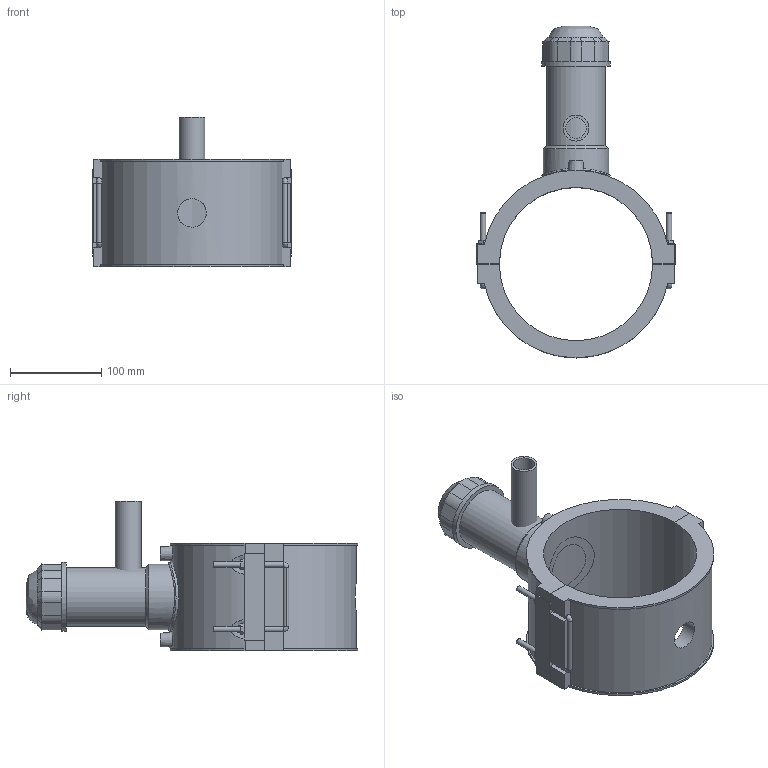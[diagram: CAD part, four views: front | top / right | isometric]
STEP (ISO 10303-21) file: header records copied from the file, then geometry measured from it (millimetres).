
FILE_DESCRIPTION(/* description */ ('PLASSON TAPPING SADDLE 6''''IPS x 1''''CTS'),/* implementation_level */ '2;1');
FILE_NAME(/* name */ 'C:\Dropbox\KIMPROJECTS-Inventor 2019\99-16-3568-Processing Inch\ASTM ElectroFusion 2021\5963BBP_5963BUP\5963BUP3060010.ipt.stp',/* time_stamp */ '2021-08-30T09:57:55+03:00',/* author */ ('KIM'),/* organization */ (''),/* preprocessor_version */ 'ST-DEVELOPER v17.2',/* originating_system */ 'Autodesk Inventor 2019',/* authorisation */ '');
FILE_SCHEMA (('AUTOMOTIVE_DESIGN { 1 0 10303 214 3 1 1 }'));
Length unit declared in the file: inch
Products named in the file (1): 5963BUP3060010
Bounding box: 217.9 x 363.85 x 163.96 mm (x, y, z)
Volume: 1613968.4 mm3; surface area: 274847.1 mm2
Topology: 3 solids, 3 shells, 187 faces, 489 edges, 313 vertices
Faces by surface type: plane 115, cylinder 47, cone 15, bspline 10
Full cylindrical faces by diameter (mm): 4 x2, 6 x8, 10 x2, 22.76 x1, 28.45 x1, 31.36 x1, 52.92 x1, 64.26 x1, 71.82 x1, 75.6 x2
Entity records: 6744 total; most frequent: CARTESIAN_POINT 2109, ORIENTED_EDGE 962, DIRECTION 932, EDGE_CURVE 481, AXIS2_PLACEMENT_3D 315, VERTEX_POINT 313, LINE 302, VECTOR 302
